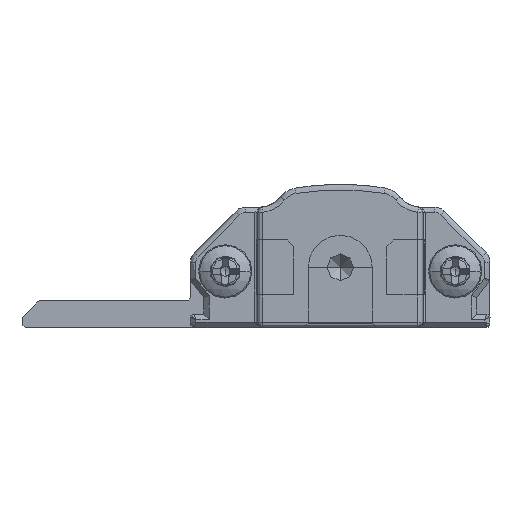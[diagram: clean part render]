
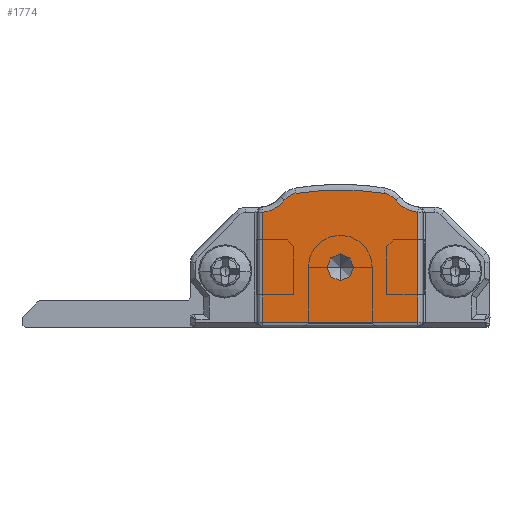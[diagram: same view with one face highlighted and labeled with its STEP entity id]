
A CAD part, front view. The second image highlights one B-rep face of the part: STEP entity #1774.
In plain terms, the highlighted planar face has unit normal (0, -1, 0).
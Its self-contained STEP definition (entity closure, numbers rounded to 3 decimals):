
#888 = VECTOR ( 'NONE', #12640, 1000. ) ;
#1638 = CARTESIAN_POINT ( 'NONE',  ( 22.15, -15., 3.606 ) ) ;
#1662 = VECTOR ( 'NONE', #14322, 1000. ) ;
#1774 = ADVANCED_FACE ( 'NONE', ( #6233, #19927 ), #27213, .T. ) ;
#2483 = DIRECTION ( 'NONE',  ( 0., 0., -1. ) ) ;
#2542 = VERTEX_POINT ( 'NONE', #7542 ) ;
#2624 = ORIENTED_EDGE ( 'NONE', *, *, #3583, .F. ) ;
#2958 = DIRECTION ( 'NONE',  ( 0., 0., -1. ) ) ;
#3579 = CIRCLE ( 'NONE', #4095, 1. ) ;
#3583 = EDGE_CURVE ( 'NONE', #4438, #4450, #27351, .T. ) ;
#4060 = EDGE_CURVE ( 'NONE', #12969, #23287, #14749, .T. ) ;
#4095 = AXIS2_PLACEMENT_3D ( 'NONE', #4736, #30926, #21238 ) ;
#4200 = DIRECTION ( 'NONE',  ( 0., 0., -1. ) ) ;
#4438 = VERTEX_POINT ( 'NONE', #15609 ) ;
#4450 = VERTEX_POINT ( 'NONE', #27948 ) ;
#4736 = CARTESIAN_POINT ( 'NONE',  ( 11.2, -15., 4.5 ) ) ;
#4743 = CIRCLE ( 'NONE', #26544, 20.676 ) ;
#4802 = AXIS2_PLACEMENT_3D ( 'NONE', #13750, #30876, #11675 ) ;
#4949 = EDGE_CURVE ( 'NONE', #14365, #2542, #18505, .T. ) ;
#5409 = DIRECTION ( 'NONE',  ( 0., 0., -1. ) ) ;
#5629 = AXIS2_PLACEMENT_3D ( 'NONE', #17592, #14894, #2483 ) ;
#5770 = EDGE_LOOP ( 'NONE', ( #16298, #2624 ) ) ;
#5773 = CARTESIAN_POINT ( 'NONE',  ( 7.892, -15., 10.034 ) ) ;
#6233 = FACE_OUTER_BOUND ( 'NONE', #21570, .T. ) ;
#7015 = CARTESIAN_POINT ( 'NONE',  ( 17., -15., 0.4 ) ) ;
#7288 = EDGE_CURVE ( 'NONE', #23578, #12969, #24850, .T. ) ;
#7542 = CARTESIAN_POINT ( 'NONE',  ( 5.4, -15., 8.612 ) ) ;
#7888 = ORIENTED_EDGE ( 'NONE', *, *, #25613, .T. ) ;
#8444 = ORIENTED_EDGE ( 'NONE', *, *, #24014, .T. ) ;
#8634 = AXIS2_PLACEMENT_3D ( 'NONE', #28084, #15605, #15905 ) ;
#8925 = DIRECTION ( 'NONE',  ( 0., 0., 1. ) ) ;
#9393 = DIRECTION ( 'NONE',  ( 0., 0., -1. ) ) ;
#10772 = ORIENTED_EDGE ( 'NONE', *, *, #24701, .T. ) ;
#11284 = ORIENTED_EDGE ( 'NONE', *, *, #7288, .T. ) ;
#11675 = DIRECTION ( 'NONE',  ( 0., 0., -1. ) ) ;
#11734 = CARTESIAN_POINT ( 'NONE',  ( 7.068, -15., 9.541 ) ) ;
#12283 = ORIENTED_EDGE ( 'NONE', *, *, #28562, .T. ) ;
#12640 = DIRECTION ( 'NONE',  ( 0., 0., -1. ) ) ;
#12969 = VERTEX_POINT ( 'NONE', #22590 ) ;
#13384 = CARTESIAN_POINT ( 'NONE',  ( 17., -15., 8.612 ) ) ;
#13437 = CARTESIAN_POINT ( 'NONE',  ( 17.238, -15., 11. ) ) ;
#13750 = CARTESIAN_POINT ( 'NONE',  ( 5.162, -15., 11. ) ) ;
#14211 = VERTEX_POINT ( 'NONE', #26104 ) ;
#14322 = DIRECTION ( 'NONE',  ( 1., 0., 0. ) ) ;
#14365 = VERTEX_POINT ( 'NONE', #11734 ) ;
#14749 = CIRCLE ( 'NONE', #5629, 1.3 ) ;
#14873 = EDGE_CURVE ( 'NONE', #2542, #14211, #29451, .T. ) ;
#14894 = DIRECTION ( 'NONE',  ( 0., -1., 0. ) ) ;
#15134 = VERTEX_POINT ( 'NONE', #5773 ) ;
#15268 = ORIENTED_EDGE ( 'NONE', *, *, #14873, .T. ) ;
#15418 = DIRECTION ( 'NONE',  ( 0., -1., 0. ) ) ;
#15605 = DIRECTION ( 'NONE',  ( 0., -1., 0. ) ) ;
#15609 = CARTESIAN_POINT ( 'NONE',  ( 11.2, -15., 5.5 ) ) ;
#15622 = LINE ( 'NONE', #13384, #26917 ) ;
#15905 = DIRECTION ( 'NONE',  ( 0., 0., -1. ) ) ;
#16236 = DIRECTION ( 'NONE',  ( 0., -1., 0. ) ) ;
#16298 = ORIENTED_EDGE ( 'NONE', *, *, #28178, .F. ) ;
#17592 = CARTESIAN_POINT ( 'NONE',  ( 14.3, -15., 8.75 ) ) ;
#18505 = CIRCLE ( 'NONE', #4802, 2.4 ) ;
#18800 = CARTESIAN_POINT ( 'NONE',  ( 17., -15., 8.612 ) ) ;
#19540 = AXIS2_PLACEMENT_3D ( 'NONE', #1638, #16236, #2958 ) ;
#19927 = FACE_BOUND ( 'NONE', #5770, .T. ) ;
#21135 = DIRECTION ( 'NONE',  ( 0., -1., 0. ) ) ;
#21238 = DIRECTION ( 'NONE',  ( 0., 0., -1. ) ) ;
#21570 = EDGE_LOOP ( 'NONE', ( #12283, #11284, #28517, #10772, #7888, #27367, #15268, #8444 ) ) ;
#22366 = CARTESIAN_POINT ( 'NONE',  ( 11.2, -15., -10.376 ) ) ;
#22590 = CARTESIAN_POINT ( 'NONE',  ( 15.332, -15., 9.541 ) ) ;
#22952 = CARTESIAN_POINT ( 'NONE',  ( 14.508, -15., 10.034 ) ) ;
#23287 = VERTEX_POINT ( 'NONE', #22952 ) ;
#23355 = AXIS2_PLACEMENT_3D ( 'NONE', #13437, #30546, #4200 ) ;
#23578 = VERTEX_POINT ( 'NONE', #18800 ) ;
#24014 = EDGE_CURVE ( 'NONE', #14211, #26789, #26355, .T. ) ;
#24701 = EDGE_CURVE ( 'NONE', #23287, #15134, #4743, .T. ) ;
#24850 = CIRCLE ( 'NONE', #23355, 2.4 ) ;
#25154 = CARTESIAN_POINT ( 'NONE',  ( 5.4, -15., 0.4 ) ) ;
#25613 = EDGE_CURVE ( 'NONE', #15134, #14365, #27565, .T. ) ;
#26104 = CARTESIAN_POINT ( 'NONE',  ( 5.4, -15., 0.4 ) ) ;
#26355 = LINE ( 'NONE', #7015, #1662 ) ;
#26544 = AXIS2_PLACEMENT_3D ( 'NONE', #22366, #15418, #5409 ) ;
#26789 = VERTEX_POINT ( 'NONE', #28291 ) ;
#26917 = VECTOR ( 'NONE', #8925, 1000. ) ;
#27213 = PLANE ( 'NONE',  #19540 ) ;
#27351 = CIRCLE ( 'NONE', #8634, 1. ) ;
#27367 = ORIENTED_EDGE ( 'NONE', *, *, #4949, .T. ) ;
#27565 = CIRCLE ( 'NONE', #31143, 1.3 ) ;
#27948 = CARTESIAN_POINT ( 'NONE',  ( 11.2, -15., 3.5 ) ) ;
#28084 = CARTESIAN_POINT ( 'NONE',  ( 11.2, -15., 4.5 ) ) ;
#28178 = EDGE_CURVE ( 'NONE', #4450, #4438, #3579, .T. ) ;
#28291 = CARTESIAN_POINT ( 'NONE',  ( 17., -15., 0.4 ) ) ;
#28517 = ORIENTED_EDGE ( 'NONE', *, *, #4060, .T. ) ;
#28562 = EDGE_CURVE ( 'NONE', #26789, #23578, #15622, .T. ) ;
#28884 = CARTESIAN_POINT ( 'NONE',  ( 8.1, -15., 8.75 ) ) ;
#29451 = LINE ( 'NONE', #25154, #888 ) ;
#30546 = DIRECTION ( 'NONE',  ( 0., 1., 0. ) ) ;
#30876 = DIRECTION ( 'NONE',  ( 0., 1., 0. ) ) ;
#30926 = DIRECTION ( 'NONE',  ( 0., -1., 0. ) ) ;
#31143 = AXIS2_PLACEMENT_3D ( 'NONE', #28884, #21135, #9393 ) ;
